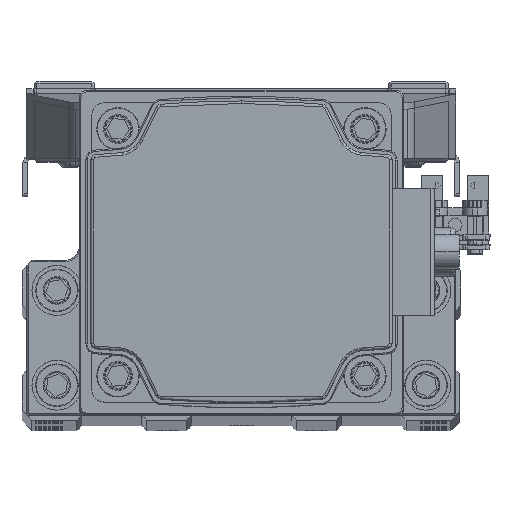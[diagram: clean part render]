
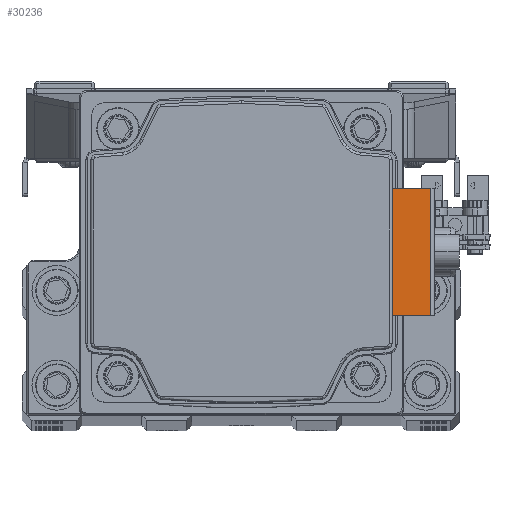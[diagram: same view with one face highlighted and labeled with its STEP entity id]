
A CAD part, top view. The second image highlights one B-rep face of the part: STEP entity #30236.
In plain terms, the highlighted planar face has unit normal (0, 0, 1) as drawn and (0, 0, -1) by its records, which use the part's own axes.
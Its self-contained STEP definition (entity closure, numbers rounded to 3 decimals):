
#737 = ORIENTED_EDGE ( 'NONE', *, *, #35870, .T. ) ;
#3697 = DIRECTION ( 'NONE',  ( 0., 1., 0. ) ) ;
#5199 = CARTESIAN_POINT ( 'NONE',  ( 0., 37.9, -88.696 ) ) ;
#5398 = CARTESIAN_POINT ( 'NONE',  ( 12.75, 30.2, -88.696 ) ) ;
#6720 = LINE ( 'NONE', #22465, #14044 ) ;
#8620 = CARTESIAN_POINT ( 'NONE',  ( -12.75, 30.2, -88.696 ) ) ;
#10151 = AXIS2_PLACEMENT_3D ( 'NONE', #5199, #20948, #36710 ) ;
#10319 = LINE ( 'NONE', #26074, #14264 ) ;
#12973 = LINE ( 'NONE', #28722, #41783 ) ;
#14044 = VECTOR ( 'NONE', #38221, 1000. ) ;
#14264 = VECTOR ( 'NONE', #41839, 1000. ) ;
#14732 = VERTEX_POINT ( 'NONE', #8620 ) ;
#15415 = EDGE_CURVE ( 'NONE', #50477, #50420, #6720, .T. ) ;
#20620 = CARTESIAN_POINT ( 'NONE',  ( 12.75, 37.9, -88.696 ) ) ;
#20948 = DIRECTION ( 'NONE',  ( 0., 0., -1. ) ) ;
#21816 = EDGE_CURVE ( 'NONE', #14732, #41219, #23316, .T. ) ;
#22014 = ORIENTED_EDGE ( 'NONE', *, *, #15415, .F. ) ;
#22465 = CARTESIAN_POINT ( 'NONE',  ( 12.75, 33.991, -88.696 ) ) ;
#23316 = LINE ( 'NONE', #39078, #28657 ) ;
#24313 = ORIENTED_EDGE ( 'NONE', *, *, #45661, .F. ) ;
#24531 = ORIENTED_EDGE ( 'NONE', *, *, #21816, .T. ) ;
#24834 = FACE_OUTER_BOUND ( 'NONE', #29470, .T. ) ;
#26074 = CARTESIAN_POINT ( 'NONE',  ( 0., 37.9, -88.696 ) ) ;
#28657 = VECTOR ( 'NONE', #3697, 1000. ) ;
#28722 = CARTESIAN_POINT ( 'NONE',  ( 18.438, 30.2, -88.696 ) ) ;
#29470 = EDGE_LOOP ( 'NONE', ( #24531, #737, #22014, #24313 ) ) ;
#30236 = ADVANCED_FACE ( 'NONE', ( #24834 ), #40589, .T. ) ;
#31535 = CARTESIAN_POINT ( 'NONE',  ( -12.75, 37.9, -88.696 ) ) ;
#35870 = EDGE_CURVE ( 'NONE', #41219, #50420, #10319, .T. ) ;
#36710 = DIRECTION ( 'NONE',  ( -1., 0., 0. ) ) ;
#38221 = DIRECTION ( 'NONE',  ( 0., 1., 0. ) ) ;
#39078 = CARTESIAN_POINT ( 'NONE',  ( -12.75, 37.9, -88.696 ) ) ;
#40589 = PLANE ( 'NONE',  #10151 ) ;
#41219 = VERTEX_POINT ( 'NONE', #31535 ) ;
#41783 = VECTOR ( 'NONE', #44510, 1000. ) ;
#41839 = DIRECTION ( 'NONE',  ( 1., 0., 0. ) ) ;
#44510 = DIRECTION ( 'NONE',  ( 1., 0., 0. ) ) ;
#45661 = EDGE_CURVE ( 'NONE', #14732, #50477, #12973, .T. ) ;
#50420 = VERTEX_POINT ( 'NONE', #20620 ) ;
#50477 = VERTEX_POINT ( 'NONE', #5398 ) ;
